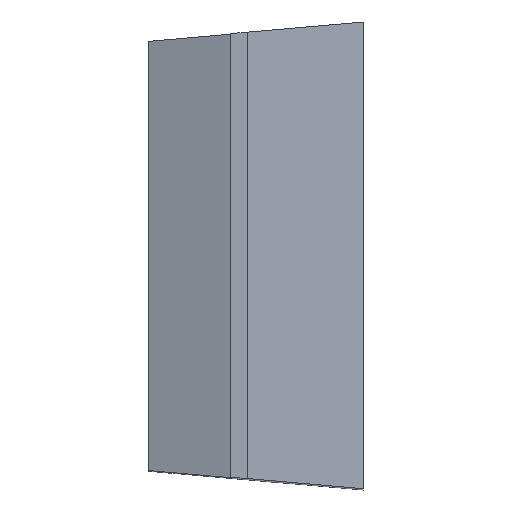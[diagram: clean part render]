
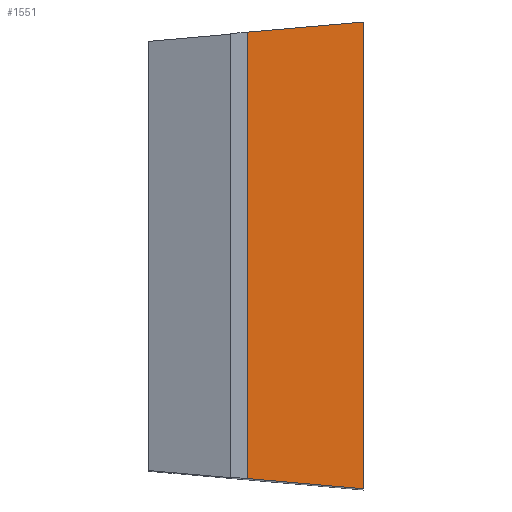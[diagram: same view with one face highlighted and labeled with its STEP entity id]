
A CAD part, top view. The second image highlights one B-rep face of the part: STEP entity #1551.
In plain terms, the highlighted planar face has unit normal (0.052, 0, 0.999).
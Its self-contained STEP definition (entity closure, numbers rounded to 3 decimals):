
#64=PLANE('',#1816);
#140=LINE('',#2576,#285);
#143=LINE('',#2582,#288);
#144=LINE('',#2584,#289);
#145=LINE('',#2585,#290);
#285=VECTOR('',#2124,10.);
#288=VECTOR('',#2131,10.);
#289=VECTOR('',#2132,10.);
#290=VECTOR('',#2133,10.);
#454=FACE_OUTER_BOUND('',#554,.T.);
#554=EDGE_LOOP('',(#1240,#1241,#1242,#1243));
#752=VERTEX_POINT('',#2573);
#753=VERTEX_POINT('',#2575);
#754=VERTEX_POINT('',#2581);
#755=VERTEX_POINT('',#2583);
#930=EDGE_CURVE('',#753,#752,#140,.T.);
#933=EDGE_CURVE('',#752,#754,#143,.T.);
#934=EDGE_CURVE('',#754,#755,#144,.T.);
#935=EDGE_CURVE('',#755,#753,#145,.T.);
#1240=ORIENTED_EDGE('',*,*,#930,.T.);
#1241=ORIENTED_EDGE('',*,*,#933,.T.);
#1242=ORIENTED_EDGE('',*,*,#934,.T.);
#1243=ORIENTED_EDGE('',*,*,#935,.T.);
#1551=ADVANCED_FACE('',(#454),#64,.T.);
#1816=AXIS2_PLACEMENT_3D('',#2580,#2129,#2130);
#2124=DIRECTION('',(-0.995,-0.087,0.052));
#2129=DIRECTION('center_axis',(0.052,0.,0.999));
#2130=DIRECTION('ref_axis',(0.999,0.,-0.052));
#2131=DIRECTION('',(0.,-1.,0.));
#2132=DIRECTION('',(0.995,-0.087,-0.052));
#2133=DIRECTION('',(0.,1.,0.));
#2573=CARTESIAN_POINT('',(-0.193,4.796,19.97));
#2575=CARTESIAN_POINT('',(2.308,5.015,19.839));
#2576=CARTESIAN_POINT('',(0.629,4.868,19.927));
#2580=CARTESIAN_POINT('Origin',(1.058,0.,19.904));
#2581=CARTESIAN_POINT('',(-0.193,-4.796,19.97));
#2582=CARTESIAN_POINT('',(-0.193,0.,19.97));
#2583=CARTESIAN_POINT('',(2.308,-5.015,19.839));
#2584=CARTESIAN_POINT('',(0.629,-4.868,19.927));
#2585=CARTESIAN_POINT('',(2.308,0.,19.839));
